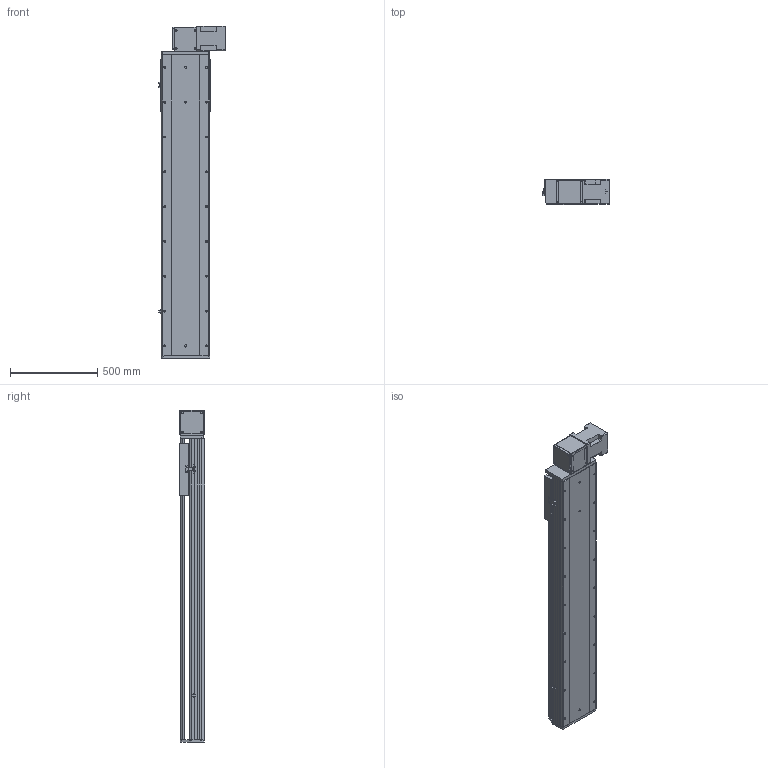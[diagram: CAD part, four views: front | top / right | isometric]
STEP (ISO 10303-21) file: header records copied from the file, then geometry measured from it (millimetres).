
FILE_DESCRIPTION (( 'STEP AP214' ), '1' );
FILE_NAME ('RTB28S-XX-1300-BL-M100-XX-C4.STEP', '2025-12-22T02:21:32', ( '' ), ( '' ), 'SwSTEP 2.0', 'SolidWorks 2018', '' );
FILE_SCHEMA (( 'AUTOMOTIVE_DESIGN' ));
Length unit declared in the file: millimetre
Products named in the file (4): RTB28S-GY-008^RTB28S-XX-XX-BL-M100-XX-C4; RTB28S-XX-1300-BL-M100-XX-C4; RTB28S-GY-004^RTB28S-XX-XX-BL-M100-XX-C4; RTB28S-GY-011^RTB28S-XX-XX-BL-M100-XX-C4
Assembly tree (3 placements, depth 2):
  RTB28S-XX-1300-BL-M100-XX-C4
    RTB28S-GY-011^RTB28S-XX-XX-BL-M100-XX-C4
    RTB28S-GY-004^RTB28S-XX-XX-BL-M100-XX-C4
    RTB28S-GY-008^RTB28S-XX-XX-BL-M100-XX-C4
Bounding box: 380.7 x 145 x 1907 mm (x, y, z)
Volume: 34344293 mm3; surface area: 3286430.4 mm2
Topology: 3 solids, 4 shells, 798 faces, 2118 edges, 1348 vertices
Faces by surface type: cylinder 367, plane 347, cone 80, torus 4
Entity records: 29999 total; most frequent: CARTESIAN_POINT 5152, DIRECTION 4488, ORIENTED_EDGE 4172, EDGE_CURVE 2086, AXIS2_PLACEMENT_3D 1624, VERTEX_POINT 1348, LINE 1240, VECTOR 1240
